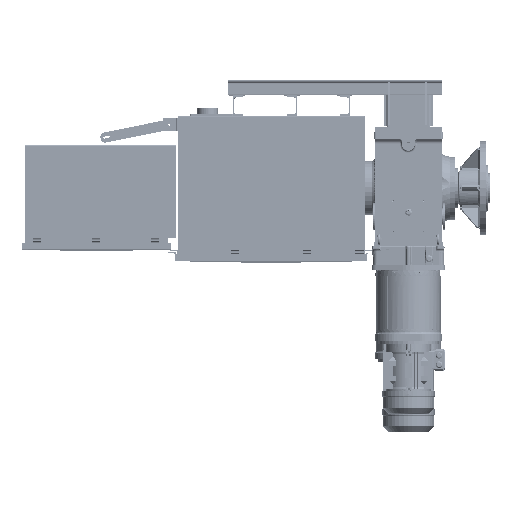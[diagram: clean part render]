
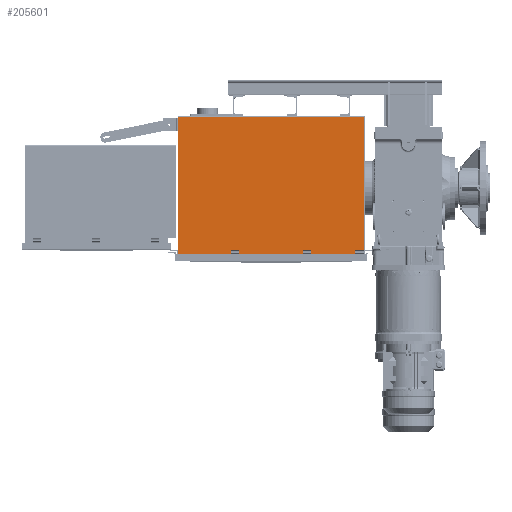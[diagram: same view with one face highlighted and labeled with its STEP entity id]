
A CAD part, top view. The second image highlights one B-rep face of the part: STEP entity #205601.
In plain terms, the highlighted planar face has unit normal (0, 0, 1).
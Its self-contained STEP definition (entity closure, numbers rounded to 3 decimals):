
#6817=FACE_BOUND('',#31805,.T.);
#6818=FACE_BOUND('',#31806,.T.);
#6819=FACE_BOUND('',#31807,.T.);
#19663=FACE_OUTER_BOUND('',#31804,.T.);
#31804=EDGE_LOOP('',(#165264,#165265,#165266,#165267,#165268,#165269,#165270,
#165271,#165272,#165273,#165274,#165275));
#31805=EDGE_LOOP('',(#165276,#165277,#165278,#165279));
#31806=EDGE_LOOP('',(#165280,#165281,#165282,#165283));
#31807=EDGE_LOOP('',(#165284,#165285,#165286,#165287));
#46527=LINE('',#357536,#64098);
#46544=LINE('',#357581,#64115);
#46546=LINE('',#357585,#64117);
#46547=LINE('',#357587,#64118);
#46548=LINE('',#357596,#64119);
#46565=LINE('',#357641,#64136);
#46567=LINE('',#357645,#64138);
#46568=LINE('',#357647,#64139);
#46569=LINE('',#357656,#64140);
#46586=LINE('',#357701,#64157);
#46588=LINE('',#357705,#64159);
#46589=LINE('',#357707,#64160);
#46892=LINE('',#358657,#64463);
#46895=LINE('',#358663,#64466);
#46898=LINE('',#358670,#64469);
#46901=LINE('',#358674,#64472);
#46907=LINE('',#358686,#64478);
#46909=LINE('',#358690,#64480);
#46911=LINE('',#358693,#64482);
#46912=LINE('',#358696,#64483);
#46913=LINE('',#358698,#64484);
#46914=LINE('',#358699,#64485);
#46915=LINE('',#358701,#64486);
#46916=LINE('',#358702,#64487);
#64098=VECTOR('',#260327,40.);
#64115=VECTOR('',#260370,40.);
#64117=VECTOR('',#260374,40.);
#64118=VECTOR('',#260377,40.);
#64119=VECTOR('',#260386,40.);
#64136=VECTOR('',#260429,40.);
#64138=VECTOR('',#260433,40.);
#64139=VECTOR('',#260436,40.);
#64140=VECTOR('',#260445,40.);
#64157=VECTOR('',#260488,40.);
#64159=VECTOR('',#260492,40.);
#64160=VECTOR('',#260495,40.);
#64463=VECTOR('',#261472,865.);
#64466=VECTOR('',#261477,0.992);
#64469=VECTOR('',#261482,2.976);
#64472=VECTOR('',#261487,1.984);
#64478=VECTOR('',#261497,2.976);
#64480=VECTOR('',#261501,0.992);
#64482=VECTOR('',#261505,1.984);
#64483=VECTOR('',#261508,23.016);
#64484=VECTOR('',#261509,699.016);
#64485=VECTOR('',#261510,915.);
#64486=VECTOR('',#261511,699.016);
#64487=VECTOR('',#261512,23.016);
#90141=VERTEX_POINT('',#357534);
#90142=VERTEX_POINT('',#357535);
#90157=VERTEX_POINT('',#357579);
#90158=VERTEX_POINT('',#357583);
#90161=VERTEX_POINT('',#357594);
#90162=VERTEX_POINT('',#357595);
#90177=VERTEX_POINT('',#357639);
#90178=VERTEX_POINT('',#357643);
#90181=VERTEX_POINT('',#357654);
#90182=VERTEX_POINT('',#357655);
#90197=VERTEX_POINT('',#357699);
#90198=VERTEX_POINT('',#357703);
#90415=VERTEX_POINT('',#358357);
#90507=VERTEX_POINT('',#358649);
#90508=VERTEX_POINT('',#358653);
#90510=VERTEX_POINT('',#358661);
#90512=VERTEX_POINT('',#358667);
#90513=VERTEX_POINT('',#358669);
#90516=VERTEX_POINT('',#358683);
#90517=VERTEX_POINT('',#358685);
#90518=VERTEX_POINT('',#358689);
#90519=VERTEX_POINT('',#358695);
#90520=VERTEX_POINT('',#358697);
#90521=VERTEX_POINT('',#358700);
#115757=EDGE_CURVE('',#90141,#90142,#46527,.T.);
#115780=EDGE_CURVE('',#90142,#90157,#46544,.T.);
#115782=EDGE_CURVE('',#90158,#90141,#46546,.T.);
#115783=EDGE_CURVE('',#90157,#90158,#46547,.T.);
#115786=EDGE_CURVE('',#90161,#90162,#46548,.T.);
#115809=EDGE_CURVE('',#90162,#90177,#46565,.T.);
#115811=EDGE_CURVE('',#90178,#90161,#46567,.T.);
#115812=EDGE_CURVE('',#90177,#90178,#46568,.T.);
#115815=EDGE_CURVE('',#90181,#90182,#46569,.T.);
#115838=EDGE_CURVE('',#90182,#90197,#46586,.T.);
#115840=EDGE_CURVE('',#90198,#90181,#46588,.T.);
#115841=EDGE_CURVE('',#90197,#90198,#46589,.T.);
#116288=EDGE_CURVE('',#90507,#90508,#46892,.T.);
#116291=EDGE_CURVE('',#90508,#90510,#46895,.T.);
#116294=EDGE_CURVE('',#90513,#90512,#46898,.T.);
#116297=EDGE_CURVE('',#90510,#90513,#46901,.T.);
#116303=EDGE_CURVE('',#90517,#90516,#46907,.T.);
#116305=EDGE_CURVE('',#90518,#90507,#46909,.T.);
#116307=EDGE_CURVE('',#90516,#90518,#46911,.T.);
#116308=EDGE_CURVE('',#90519,#90512,#46912,.T.);
#116309=EDGE_CURVE('',#90520,#90519,#46913,.T.);
#116310=EDGE_CURVE('',#90520,#90415,#46914,.T.);
#116311=EDGE_CURVE('',#90521,#90415,#46915,.T.);
#116312=EDGE_CURVE('',#90517,#90521,#46916,.T.);
#165264=ORIENTED_EDGE('',*,*,#116294,.T.);
#165265=ORIENTED_EDGE('',*,*,#116308,.F.);
#165266=ORIENTED_EDGE('',*,*,#116309,.F.);
#165267=ORIENTED_EDGE('',*,*,#116310,.T.);
#165268=ORIENTED_EDGE('',*,*,#116311,.F.);
#165269=ORIENTED_EDGE('',*,*,#116312,.F.);
#165270=ORIENTED_EDGE('',*,*,#116303,.T.);
#165271=ORIENTED_EDGE('',*,*,#116307,.T.);
#165272=ORIENTED_EDGE('',*,*,#116305,.T.);
#165273=ORIENTED_EDGE('',*,*,#116288,.T.);
#165274=ORIENTED_EDGE('',*,*,#116291,.T.);
#165275=ORIENTED_EDGE('',*,*,#116297,.T.);
#165276=ORIENTED_EDGE('',*,*,#115757,.T.);
#165277=ORIENTED_EDGE('',*,*,#115780,.T.);
#165278=ORIENTED_EDGE('',*,*,#115783,.T.);
#165279=ORIENTED_EDGE('',*,*,#115782,.T.);
#165280=ORIENTED_EDGE('',*,*,#115786,.T.);
#165281=ORIENTED_EDGE('',*,*,#115809,.T.);
#165282=ORIENTED_EDGE('',*,*,#115812,.T.);
#165283=ORIENTED_EDGE('',*,*,#115811,.T.);
#165284=ORIENTED_EDGE('',*,*,#115815,.T.);
#165285=ORIENTED_EDGE('',*,*,#115838,.T.);
#165286=ORIENTED_EDGE('',*,*,#115841,.T.);
#165287=ORIENTED_EDGE('',*,*,#115840,.T.);
#184444=PLANE('',#221125);
#205601=ADVANCED_FACE('',(#19663,#6817,#6818,#6819),#184444,.F.);
#221125=AXIS2_PLACEMENT_3D('',#358694,#261506,#261507);
#260327=DIRECTION('',(0.,1.,0.));
#260370=DIRECTION('',(1.,0.,0.));
#260374=DIRECTION('',(-1.,0.,0.));
#260377=DIRECTION('',(0.,-1.,0.));
#260386=DIRECTION('',(0.,1.,0.));
#260429=DIRECTION('',(1.,0.,0.));
#260433=DIRECTION('',(-1.,0.,0.));
#260436=DIRECTION('',(0.,-1.,0.));
#260445=DIRECTION('',(0.,1.,0.));
#260488=DIRECTION('',(1.,0.,0.));
#260492=DIRECTION('',(-1.,0.,0.));
#260495=DIRECTION('',(0.,-1.,0.));
#261472=DIRECTION('',(1.,0.,0.));
#261477=DIRECTION('',(0.,1.,0.));
#261482=DIRECTION('',(0.,-1.,0.));
#261487=DIRECTION('',(1.,0.,0.));
#261497=DIRECTION('',(0.,1.,0.));
#261501=DIRECTION('',(0.,-1.,0.));
#261505=DIRECTION('',(1.,0.,0.));
#261506=DIRECTION('center_axis',(0.,0.,
-1.));
#261507=DIRECTION('ref_axis',(1.,0.,0.));
#261508=DIRECTION('',(-1.,0.,0.));
#261509=DIRECTION('',(0.,-1.,0.));
#261510=DIRECTION('',(-1.,0.,0.));
#261511=DIRECTION('',(0.,1.,0.));
#261512=DIRECTION('',(-1.,0.,0.));
#357534=CARTESIAN_POINT('',(-387.982,-551.817,774.738));
#357535=CARTESIAN_POINT('',(-387.982,-511.817,774.738));
#357536=CARTESIAN_POINT('',(-387.982,-364.737,774.738));
#357579=CARTESIAN_POINT('',(-347.982,-511.817,774.738));
#357581=CARTESIAN_POINT('',(-585.482,-511.817,774.738));
#357583=CARTESIAN_POINT('',(-347.982,-551.817,774.738));
#357585=CARTESIAN_POINT('',(-585.482,-551.817,774.738));
#357587=CARTESIAN_POINT('',(-347.982,-364.737,774.738));
#357594=CARTESIAN_POINT('',(-997.982,-551.817,774.738));
#357595=CARTESIAN_POINT('',(-997.982,-511.817,774.738));
#357596=CARTESIAN_POINT('',(-997.982,-364.737,774.738));
#357639=CARTESIAN_POINT('',(-957.982,-511.817,774.738));
#357641=CARTESIAN_POINT('',(-890.482,-511.817,774.738));
#357643=CARTESIAN_POINT('',(-957.982,-551.817,774.738));
#357645=CARTESIAN_POINT('',(-890.482,-551.817,774.738));
#357647=CARTESIAN_POINT('',(-957.982,-364.737,774.738));
#357654=CARTESIAN_POINT('',(-647.982,-551.817,774.738));
#357655=CARTESIAN_POINT('',(-647.982,-511.817,774.738));
#357656=CARTESIAN_POINT('',(-647.982,-364.737,774.738));
#357699=CARTESIAN_POINT('',(-607.982,-511.817,774.738));
#357701=CARTESIAN_POINT('',(-715.482,-511.817,774.738));
#357703=CARTESIAN_POINT('',(-607.982,-551.817,774.738));
#357705=CARTESIAN_POINT('',(-715.482,-551.817,774.738));
#357707=CARTESIAN_POINT('',(-607.982,-364.737,774.738));
#358357=CARTESIAN_POINT('',(-1260.482,141.483,774.738));
#358649=CARTESIAN_POINT('',(-1235.482,-555.55,774.738));
#358653=CARTESIAN_POINT('',(-370.482,-555.55,774.738));
#358657=CARTESIAN_POINT('',(-586.732,-555.55,774.738));
#358661=CARTESIAN_POINT('',(-370.482,-554.558,774.738));
#358663=CARTESIAN_POINT('',(-370.482,-380.17,774.738));
#358667=CARTESIAN_POINT('',(-368.498,-557.534,774.738));
#358669=CARTESIAN_POINT('',(-368.498,-554.558,774.738));
#358670=CARTESIAN_POINT('',(-368.498,-381.658,774.738));
#358674=CARTESIAN_POINT('',(-585.74,-554.558,774.738));
#358683=CARTESIAN_POINT('',(-1237.466,-554.558,774.738));
#358685=CARTESIAN_POINT('',(-1237.466,-557.534,774.738));
#358686=CARTESIAN_POINT('',(-1237.466,-380.17,774.738));
#358689=CARTESIAN_POINT('',(-1235.482,-554.558,774.738));
#358690=CARTESIAN_POINT('',(-1235.482,-381.658,774.738));
#358693=CARTESIAN_POINT('',(-1019.232,-554.558,774.738));
#358694=CARTESIAN_POINT('Origin',(-802.982,-205.782,774.738));
#358695=CARTESIAN_POINT('',(-345.482,-557.534,774.738));
#358696=CARTESIAN_POINT('',(-345.482,-557.534,774.738));
#358697=CARTESIAN_POINT('',(-345.482,141.483,774.738));
#358698=CARTESIAN_POINT('',(-345.482,141.483,774.738));
#358699=CARTESIAN_POINT('',(-802.982,141.483,774.738));
#358700=CARTESIAN_POINT('',(-1260.482,-557.534,774.738));
#358701=CARTESIAN_POINT('',(-1260.482,150.457,774.738));
#358702=CARTESIAN_POINT('',(-345.482,-557.534,774.738));
